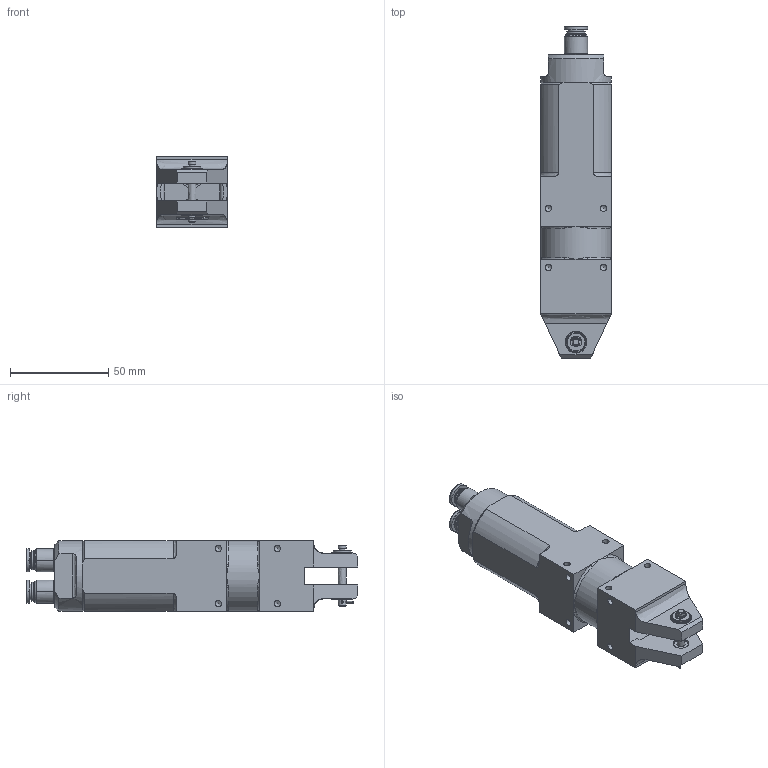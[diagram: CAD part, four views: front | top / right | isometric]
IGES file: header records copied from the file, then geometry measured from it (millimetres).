
Global section: file name: \\Kikaku_server01\kikaku\; native system: Rhinoceros ( Feb 22 2008 ); preprocessor: Trout Lake IGES 012 Feb 22 2008; date: 081001.005051; units: millimetre
Bounding box: 36 x 168.73 x 36 mm (x, y, z)
Surface area: 28216.1 mm2 (no closed solid volume)
Topology: 0 solids, 0 shells, 292 faces, 1705 edges, 1648 vertices
Faces by surface type: bspline 292
